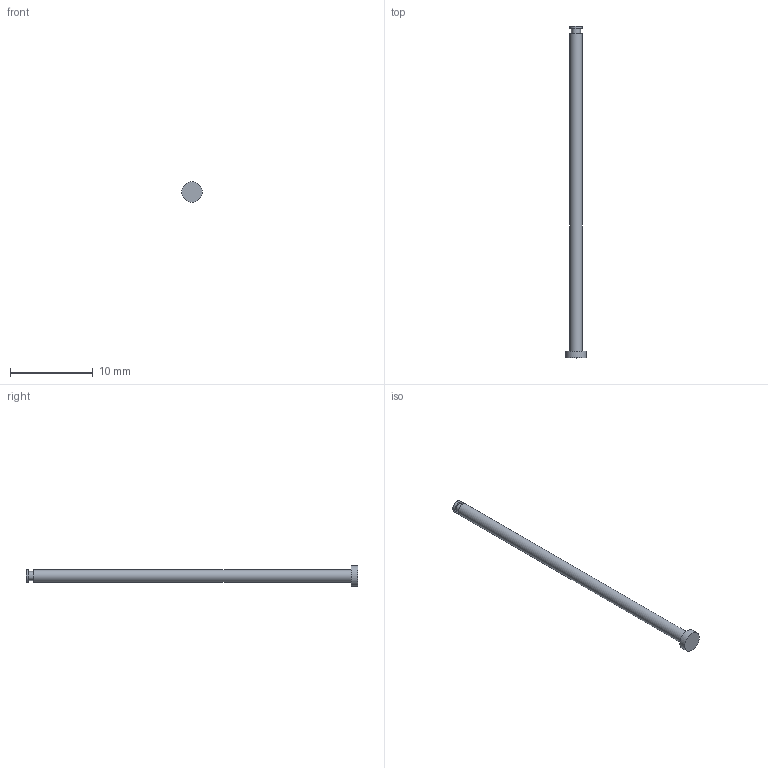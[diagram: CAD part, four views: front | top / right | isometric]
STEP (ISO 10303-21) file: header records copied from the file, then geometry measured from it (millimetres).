
FILE_DESCRIPTION(('Open CASCADE Model'),'2;1');
FILE_NAME('hinge_pin','2026-11-19T17:25:15',('Author'),('Open CASCADE'), 'Open CASCADE STEP processor 7.8','build123d','Unknown');
FILE_SCHEMA(('AUTOMOTIVE_DESIGN { 1 0 10303 214 1 1 1 1 }'));
Length unit declared in the file: millimetre
Products named in the file (1): hinge_pin
Bounding box: 2.5 x 40 x 2.5 mm (x, y, z)
Volume: 72.7 mm3; surface area: 201.8 mm2
Topology: 1 solids, 1 shells, 9 faces, 12 edges, 8 vertices
Faces by surface type: plane 5, cylinder 4
Full cylindrical faces by diameter (mm): 1.1 x1, 1.5 x2, 2.5 x1
Entity records: 369 total; most frequent: DIRECTION 64, CARTESIAN_POINT 54, ORIENTED_EDGE 24, PCURVE 24, DEFINITIONAL_REPRESENTATION 24, LINE 20, VECTOR 20, AXIS2_PLACEMENT_3D 18
